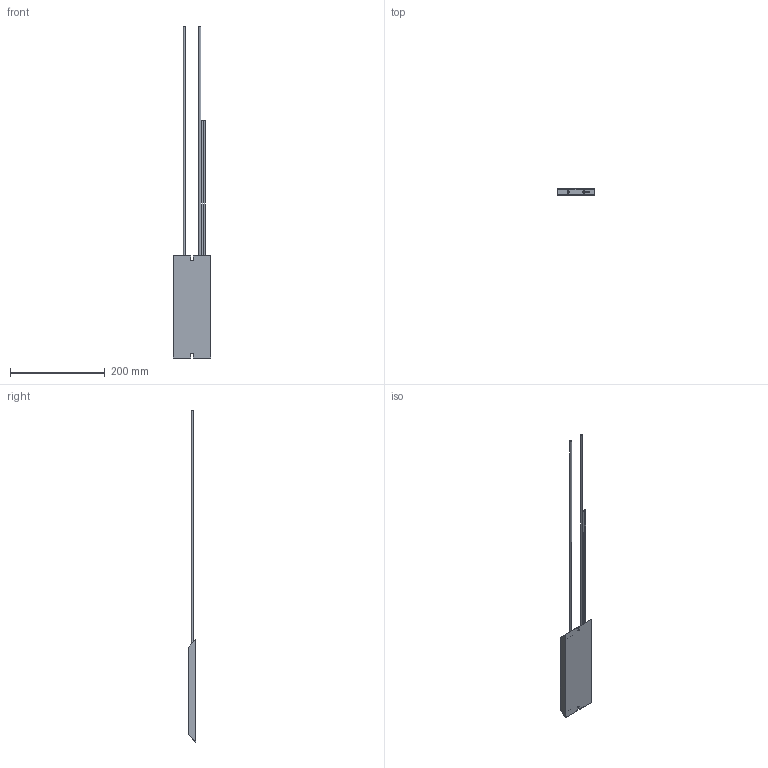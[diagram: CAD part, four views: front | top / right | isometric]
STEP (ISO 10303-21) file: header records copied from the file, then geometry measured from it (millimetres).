
FILE_DESCRIPTION(/* description */ (''),/* implementation_level */ '2;1');
FILE_NAME(/* name */ 'C:\_Vault\Dati\CATALOGO\RFD\RFDVT300.stp',/* time_stamp */ '2014-03-27T18:02:07+01:00',/* author */ ('stefano'),/* organization */ (''),/* preprocessor_version */ 'ST-DEVELOPER v15.2',/* originating_system */ 'Autodesk Inventor 2014',/* authorisation */ '');
FILE_SCHEMA (('AUTOMOTIVE_DESIGN { 1 0 10303 214 3 1 1 }'));
Length unit declared in the file: millimetre
Products named in the file (1): RFDVT300
Bounding box: 80 x 15 x 702.6 mm (x, y, z)
Volume: 245477.6 mm3; surface area: 60082.7 mm2
Topology: 1 solids, 1 shells, 36 faces, 78 edges, 52 vertices
Faces by surface type: plane 26, cylinder 10
Full cylindrical faces by diameter (mm): 1.5 x2, 2 x2, 2.5 x2, 4 x2
Entity records: 1048 total; most frequent: DIRECTION 164, CARTESIAN_POINT 159, ORIENTED_EDGE 140, EDGE_CURVE 70, AXIS2_PLACEMENT_3D 57, EDGE_LOOP 52, VERTEX_POINT 52, LINE 50
